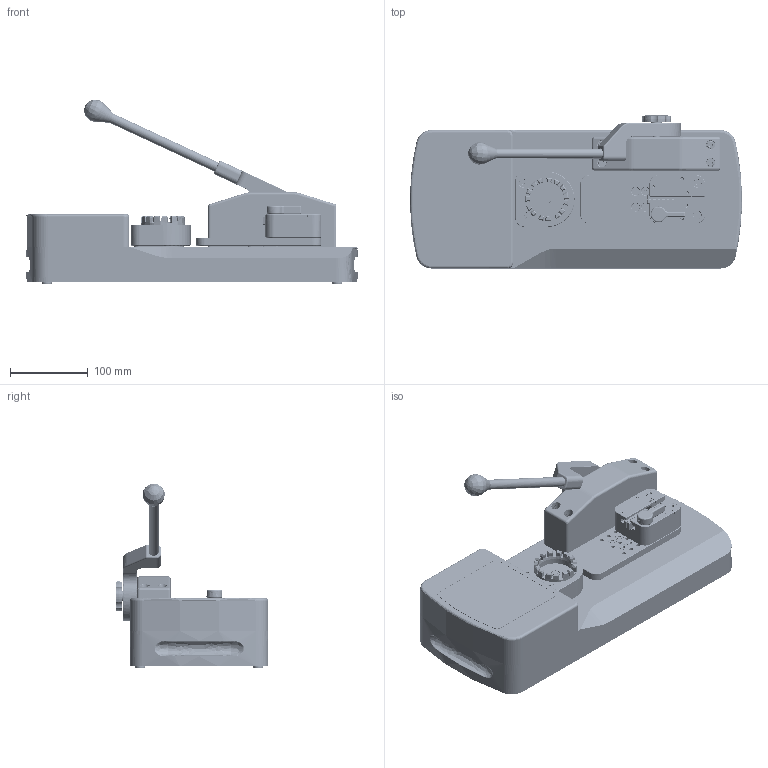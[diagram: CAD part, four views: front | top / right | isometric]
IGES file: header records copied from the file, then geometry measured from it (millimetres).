
Global section: file name: WT-205; native system: Autodesk RealDWG; preprocessor: Autodesk Translation Framework DWG producer (atf_dwg_producer); organization: unknown; date: 20250418.125353; units: inch
Bounding box: 426.72 x 196.52 x 237.51 mm (x, y, z)
Volume: 8134788.7 mm3; surface area: 1978101.2 mm2
Topology: 96 solids, 137 shells, 9387 faces, 25849 edges, 17011 vertices
Faces by surface type: bspline 9387
